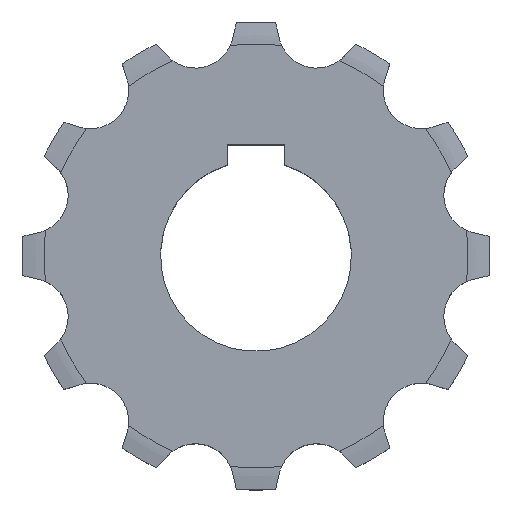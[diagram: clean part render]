
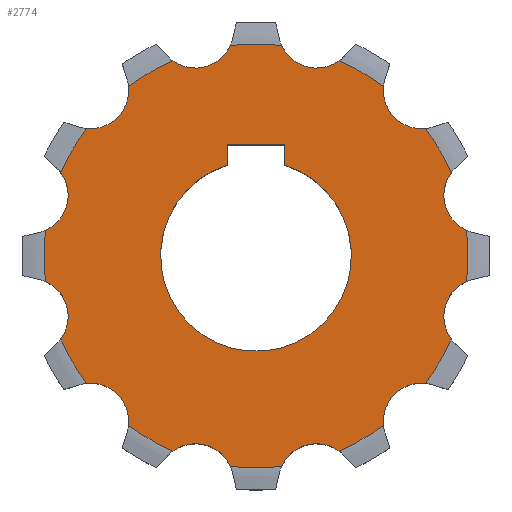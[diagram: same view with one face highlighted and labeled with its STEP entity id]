
A CAD part, top view. The second image highlights one B-rep face of the part: STEP entity #2774.
In plain terms, the highlighted planar face has unit normal (0, 0, 1).
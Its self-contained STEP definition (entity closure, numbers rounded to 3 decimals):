
#33=CARTESIAN_POINT('',(12.7,47.397,8.1));
#34=DIRECTION('',(0.,0.,1.));
#35=DIRECTION('',(-0.913,-0.408,0.));
#36=AXIS2_PLACEMENT_3D('',#33,#34,#35);
#42=CARTESIAN_POINT('',(0.,0.,8.1));
#43=DIRECTION('',(0.,0.,-1.));
#44=DIRECTION('',(0.392,0.92,0.));
#45=AXIS2_PLACEMENT_3D('',#42,#43,#44);
#50=CARTESIAN_POINT('',(34.697,34.697,8.1));
#51=DIRECTION('',(0.,0.,1.));
#52=DIRECTION('',(-0.995,0.103,0.));
#53=AXIS2_PLACEMENT_3D('',#50,#51,#52);
#58=CARTESIAN_POINT('',(0.,0.,8.1));
#59=DIRECTION('',(0.,0.,-1.));
#60=DIRECTION('',(0.799,0.601,0.));
#61=AXIS2_PLACEMENT_3D('',#58,#59,#60);
#66=CARTESIAN_POINT('',(47.397,12.7,8.1));
#67=DIRECTION('',(0.,0.,1.));
#68=DIRECTION('',(-0.81,0.587,0.));
#69=AXIS2_PLACEMENT_3D('',#66,#67,#68);
#74=CARTESIAN_POINT('',(0.,0.,8.1));
#75=DIRECTION('',(0.,0.,-1.));
#76=DIRECTION('',(0.993,0.121,0.));
#77=AXIS2_PLACEMENT_3D('',#74,#75,#76);
#82=CARTESIAN_POINT('',(47.397,-12.7,8.1));
#83=DIRECTION('',(0.,0.,1.));
#84=DIRECTION('',(-0.408,0.913,0.));
#85=AXIS2_PLACEMENT_3D('',#82,#83,#84);
#90=CARTESIAN_POINT('',(0.,0.,8.1));
#91=DIRECTION('',(0.,0.,-1.));
#92=DIRECTION('',(0.92,-0.392,0.));
#93=AXIS2_PLACEMENT_3D('',#90,#91,#92);
#98=CARTESIAN_POINT('',(34.697,-34.697,8.1));
#99=DIRECTION('',(0.,0.,1.));
#100=DIRECTION('',(0.103,0.995,0.));
#101=AXIS2_PLACEMENT_3D('',#98,#99,#100);
#106=CARTESIAN_POINT('',(0.,0.,8.1));
#107=DIRECTION('',(0.,0.,-1.));
#108=DIRECTION('',(0.601,-0.799,0.));
#109=AXIS2_PLACEMENT_3D('',#106,#107,#108);
#114=CARTESIAN_POINT('',(12.7,-47.397,8.1));
#115=DIRECTION('',(0.,0.,1.));
#116=DIRECTION('',(0.587,0.81,0.));
#117=AXIS2_PLACEMENT_3D('',#114,#115,#116);
#122=CARTESIAN_POINT('',(-12.7,-47.397,8.1));
#123=DIRECTION('',(0.,0.,1.));
#124=DIRECTION('',(0.913,0.408,0.));
#125=AXIS2_PLACEMENT_3D('',#122,#123,#124);
#130=CARTESIAN_POINT('',(0.,0.,8.1));
#131=DIRECTION('',(0.,0.,-1.));
#132=DIRECTION('',(-0.392,-0.92,0.));
#133=AXIS2_PLACEMENT_3D('',#130,#131,#132);
#138=CARTESIAN_POINT('',(-34.697,-34.697,8.1));
#139=DIRECTION('',(0.,0.,1.));
#140=DIRECTION('',(0.995,-0.103,0.));
#141=AXIS2_PLACEMENT_3D('',#138,#139,#140);
#146=CARTESIAN_POINT('',(0.,0.,8.1));
#147=DIRECTION('',(0.,0.,-1.));
#148=DIRECTION('',(-0.799,-0.601,0.));
#149=AXIS2_PLACEMENT_3D('',#146,#147,#148);
#154=CARTESIAN_POINT('',(-47.397,-12.7,8.1));
#155=DIRECTION('',(0.,0.,1.));
#156=DIRECTION('',(0.81,-0.587,0.));
#157=AXIS2_PLACEMENT_3D('',#154,#155,#156);
#162=CARTESIAN_POINT('',(0.,0.,8.1));
#163=DIRECTION('',(0.,0.,-1.));
#164=DIRECTION('',(-0.993,-0.121,0.));
#165=AXIS2_PLACEMENT_3D('',#162,#163,#164);
#170=CARTESIAN_POINT('',(-47.397,12.7,8.1));
#171=DIRECTION('',(0.,0.,1.));
#172=DIRECTION('',(0.408,-0.913,0.));
#173=AXIS2_PLACEMENT_3D('',#170,#171,#172);
#178=CARTESIAN_POINT('',(0.,0.,8.1));
#179=DIRECTION('',(0.,0.,-1.));
#180=DIRECTION('',(-0.92,0.392,0.));
#181=AXIS2_PLACEMENT_3D('',#178,#179,#180);
#186=CARTESIAN_POINT('',(-34.697,34.697,8.1));
#187=DIRECTION('',(0.,0.,1.));
#188=DIRECTION('',(-0.103,-0.995,0.));
#189=AXIS2_PLACEMENT_3D('',#186,#187,#188);
#194=CARTESIAN_POINT('',(0.,0.,8.1));
#195=DIRECTION('',(0.,0.,-1.));
#196=DIRECTION('',(-0.601,0.799,0.));
#197=AXIS2_PLACEMENT_3D('',#194,#195,#196);
#202=CARTESIAN_POINT('',(-12.7,47.397,8.1));
#203=DIRECTION('',(0.,0.,1.));
#204=DIRECTION('',(-0.587,-0.81,0.));
#205=AXIS2_PLACEMENT_3D('',#202,#203,#204);
#210=DIRECTION('',(0.,1.,0.));
#211=VECTOR('',#210,4.221);
#212=CARTESIAN_POINT('',(6.,19.079,8.1));
#213=LINE('',#212,#211);
#217=DIRECTION('',(-1.,0.,0.));
#218=VECTOR('',#217,12.);
#219=CARTESIAN_POINT('',(6.,23.3,8.1));
#220=LINE('',#219,#218);
#224=DIRECTION('',(0.,-1.,0.));
#225=VECTOR('',#224,4.221);
#226=CARTESIAN_POINT('',(-6.,23.3,8.1));
#227=LINE('',#226,#225);
#255=CARTESIAN_POINT('',(0.,0.,8.1));
#256=DIRECTION('',(0.,0.,1.));
#257=DIRECTION('',(0.121,0.993,0.));
#258=AXIS2_PLACEMENT_3D('',#255,#256,#257);
#279=CARTESIAN_POINT('',(0.,0.,8.1));
#280=DIRECTION('',(0.,0.,1.));
#281=DIRECTION('',(-0.121,-0.993,0.));
#282=AXIS2_PLACEMENT_3D('',#279,#280,#281);
#1340=CARTESIAN_POINT('',(0.,0.,8.1));
#1341=DIRECTION('',(0.,0.,-1.));
#1342=DIRECTION('',(0.3,0.954,0.));
#1343=AXIS2_PLACEMENT_3D('',#1340,#1341,#1342);
#1414=CARTESIAN_POINT('',(-5.379,44.124,8.1));
#1694=CARTESIAN_POINT('',(-5.379,-44.124,8.1));
#2318=CARTESIAN_POINT('',(5.379,44.124,8.1));
#2417=CARTESIAN_POINT('',(17.404,40.902,8.1));
#2418=CARTESIAN_POINT('',(26.72,35.523,8.1));
#2419=VERTEX_POINT('',#2417);
#2420=VERTEX_POINT('',#2418);
#2421=CARTESIAN_POINT('',(35.523,26.72,8.1));
#2422=CARTESIAN_POINT('',(40.902,17.404,8.1));
#2423=VERTEX_POINT('',#2421);
#2424=VERTEX_POINT('',#2422);
#2425=CARTESIAN_POINT('',(44.124,5.379,8.1));
#2426=CARTESIAN_POINT('',(44.124,-5.379,8.1));
#2427=VERTEX_POINT('',#2425);
#2428=VERTEX_POINT('',#2426);
#2429=CARTESIAN_POINT('',(-17.404,-40.902,8.1));
#2430=CARTESIAN_POINT('',(-26.72,-35.523,8.1));
#2431=VERTEX_POINT('',#2429);
#2432=VERTEX_POINT('',#2430);
#2433=CARTESIAN_POINT('',(-35.523,-26.72,8.1));
#2434=CARTESIAN_POINT('',(-40.902,-17.404,8.1));
#2435=VERTEX_POINT('',#2433);
#2436=VERTEX_POINT('',#2434);
#2437=CARTESIAN_POINT('',(-44.124,-5.379,8.1));
#2438=CARTESIAN_POINT('',(-44.124,5.379,8.1));
#2439=VERTEX_POINT('',#2437);
#2440=VERTEX_POINT('',#2438);
#2466=VERTEX_POINT('',#2318);
#2482=VERTEX_POINT('',#1694);
#2489=CARTESIAN_POINT('',(40.902,-17.404,8.1));
#2490=VERTEX_POINT('',#2489);
#2493=CARTESIAN_POINT('',(35.523,-26.72,8.1));
#2494=CARTESIAN_POINT('',(26.72,-35.523,8.1));
#2495=VERTEX_POINT('',#2493);
#2496=VERTEX_POINT('',#2494);
#2501=CARTESIAN_POINT('',(17.404,-40.902,8.1));
#2502=CARTESIAN_POINT('',(5.379,-44.124,8.1));
#2503=VERTEX_POINT('',#2501);
#2504=VERTEX_POINT('',#2502);
#2533=CARTESIAN_POINT('',(-40.902,17.404,8.1));
#2534=CARTESIAN_POINT('',(-35.523,26.72,8.1));
#2535=VERTEX_POINT('',#2533);
#2536=VERTEX_POINT('',#2534);
#2537=CARTESIAN_POINT('',(-26.72,35.523,8.1));
#2538=CARTESIAN_POINT('',(-17.404,40.902,8.1));
#2539=VERTEX_POINT('',#2537);
#2540=VERTEX_POINT('',#2538);
#2659=CARTESIAN_POINT('',(6.,19.079,8.1));
#2660=VERTEX_POINT('',#2659);
#2661=CARTESIAN_POINT('',(-6.,19.079,8.1));
#2662=VERTEX_POINT('',#2661);
#2663=CARTESIAN_POINT('',(6.,23.3,8.1));
#2664=VERTEX_POINT('',#2663);
#2665=CARTESIAN_POINT('',(-6.,23.3,8.1));
#2666=VERTEX_POINT('',#2665);
#2704=VERTEX_POINT('',#1414);
#2709=CARTESIAN_POINT('',(0.,0.,8.1));
#2710=DIRECTION('',(0.,0.,1.));
#2711=DIRECTION('',(1.,0.,0.));
#2712=AXIS2_PLACEMENT_3D('',#2709,#2710,#2711);
#2713=PLANE('',#2712);
#2715=ORIENTED_EDGE('',*,*,#2714,.F.);
#2717=ORIENTED_EDGE('',*,*,#2716,.T.);
#2719=ORIENTED_EDGE('',*,*,#2718,.T.);
#2721=ORIENTED_EDGE('',*,*,#2720,.T.);
#2723=ORIENTED_EDGE('',*,*,#2722,.T.);
#2725=ORIENTED_EDGE('',*,*,#2724,.T.);
#2727=ORIENTED_EDGE('',*,*,#2726,.T.);
#2729=ORIENTED_EDGE('',*,*,#2728,.T.);
#2731=ORIENTED_EDGE('',*,*,#2730,.T.);
#2733=ORIENTED_EDGE('',*,*,#2732,.T.);
#2735=ORIENTED_EDGE('',*,*,#2734,.T.);
#2737=ORIENTED_EDGE('',*,*,#2736,.T.);
#2739=ORIENTED_EDGE('',*,*,#2738,.F.);
#2741=ORIENTED_EDGE('',*,*,#2740,.T.);
#2743=ORIENTED_EDGE('',*,*,#2742,.T.);
#2745=ORIENTED_EDGE('',*,*,#2744,.T.);
#2747=ORIENTED_EDGE('',*,*,#2746,.T.);
#2749=ORIENTED_EDGE('',*,*,#2748,.T.);
#2751=ORIENTED_EDGE('',*,*,#2750,.T.);
#2753=ORIENTED_EDGE('',*,*,#2752,.T.);
#2755=ORIENTED_EDGE('',*,*,#2754,.T.);
#2757=ORIENTED_EDGE('',*,*,#2756,.T.);
#2759=ORIENTED_EDGE('',*,*,#2758,.T.);
#2761=ORIENTED_EDGE('',*,*,#2760,.T.);
#2762=EDGE_LOOP('',(#2715,#2717,#2719,#2721,#2723,#2725,#2727,#2729,#2731,#2733,
#2735,#2737,#2739,#2741,#2743,#2745,#2747,#2749,#2751,#2753,#2755,#2757,#2759,
#2761));
#2763=FACE_OUTER_BOUND('',#2762,.F.);
#2765=ORIENTED_EDGE('',*,*,#2764,.T.);
#2767=ORIENTED_EDGE('',*,*,#2766,.T.);
#2769=ORIENTED_EDGE('',*,*,#2768,.T.);
#2771=ORIENTED_EDGE('',*,*,#2770,.F.);
#2772=EDGE_LOOP('',(#2765,#2767,#2769,#2771));
#2773=FACE_BOUND('',#2772,.F.);
#2774=ADVANCED_FACE('',(#2763,#2773),#2713,.T.);
#37=CIRCLE('',#36,8.019);
#46=CIRCLE('',#45,44.451);
#54=CIRCLE('',#53,8.019);
#62=CIRCLE('',#61,44.451);
#70=CIRCLE('',#69,8.019);
#78=CIRCLE('',#77,44.451);
#86=CIRCLE('',#85,8.019);
#94=CIRCLE('',#93,44.451);
#102=CIRCLE('',#101,8.019);
#110=CIRCLE('',#109,44.451);
#118=CIRCLE('',#117,8.019);
#126=CIRCLE('',#125,8.019);
#134=CIRCLE('',#133,44.451);
#142=CIRCLE('',#141,8.019);
#150=CIRCLE('',#149,44.451);
#158=CIRCLE('',#157,8.019);
#166=CIRCLE('',#165,44.451);
#174=CIRCLE('',#173,8.019);
#182=CIRCLE('',#181,44.451);
#190=CIRCLE('',#189,8.019);
#198=CIRCLE('',#197,44.451);
#206=CIRCLE('',#205,8.019);
#259=CIRCLE('',#258,44.451);
#283=CIRCLE('',#282,44.451);
#1344=CIRCLE('',#1343,20.);
#2714=EDGE_CURVE('',#2466,#2704,#259,.T.);
#2716=EDGE_CURVE('',#2466,#2419,#37,.T.);
#2718=EDGE_CURVE('',#2419,#2420,#46,.T.);
#2720=EDGE_CURVE('',#2420,#2423,#54,.T.);
#2722=EDGE_CURVE('',#2423,#2424,#62,.T.);
#2724=EDGE_CURVE('',#2424,#2427,#70,.T.);
#2726=EDGE_CURVE('',#2427,#2428,#78,.T.);
#2728=EDGE_CURVE('',#2428,#2490,#86,.T.);
#2730=EDGE_CURVE('',#2490,#2495,#94,.T.);
#2732=EDGE_CURVE('',#2495,#2496,#102,.T.);
#2734=EDGE_CURVE('',#2496,#2503,#110,.T.);
#2736=EDGE_CURVE('',#2503,#2504,#118,.T.);
#2738=EDGE_CURVE('',#2482,#2504,#283,.T.);
#2740=EDGE_CURVE('',#2482,#2431,#126,.T.);
#2742=EDGE_CURVE('',#2431,#2432,#134,.T.);
#2744=EDGE_CURVE('',#2432,#2435,#142,.T.);
#2746=EDGE_CURVE('',#2435,#2436,#150,.T.);
#2748=EDGE_CURVE('',#2436,#2439,#158,.T.);
#2750=EDGE_CURVE('',#2439,#2440,#166,.T.);
#2752=EDGE_CURVE('',#2440,#2535,#174,.T.);
#2754=EDGE_CURVE('',#2535,#2536,#182,.T.);
#2756=EDGE_CURVE('',#2536,#2539,#190,.T.);
#2758=EDGE_CURVE('',#2539,#2540,#198,.T.);
#2760=EDGE_CURVE('',#2540,#2704,#206,.T.);
#2764=EDGE_CURVE('',#2660,#2664,#213,.T.);
#2766=EDGE_CURVE('',#2664,#2666,#220,.T.);
#2768=EDGE_CURVE('',#2666,#2662,#227,.T.);
#2770=EDGE_CURVE('',#2660,#2662,#1344,.T.);
